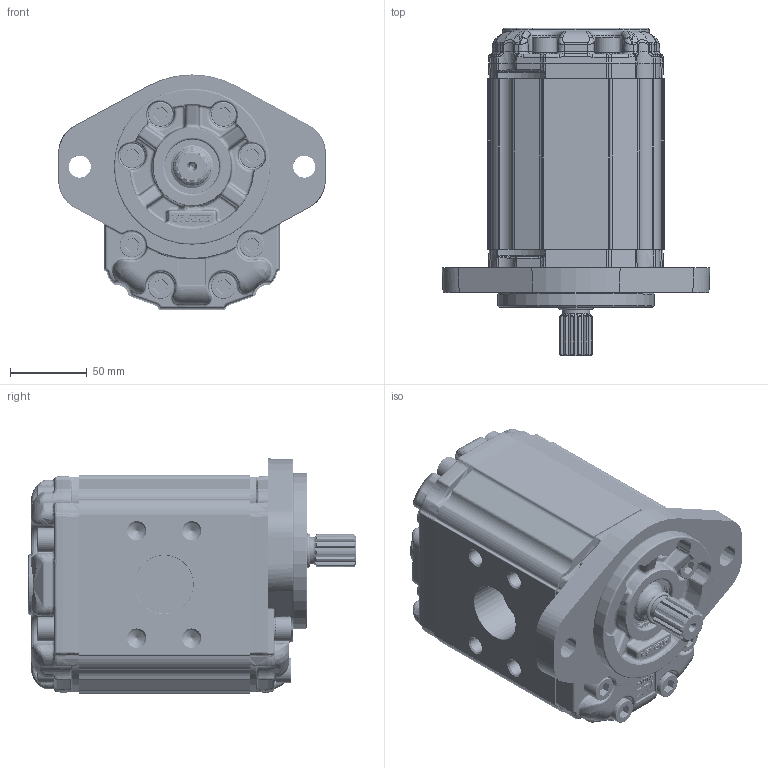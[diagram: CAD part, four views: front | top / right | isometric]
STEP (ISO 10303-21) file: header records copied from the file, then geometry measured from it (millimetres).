
FILE_DESCRIPTION(/* description */ ('Unknown'),/* implementation_level */ '2;1');
FILE_NAME(/* name */ 'X3R8631IPPF',/* time_stamp */ '2026-06-04T19:31:09+02:00',/* author */ ('Unknown'),/* organization */ ('Unknown'),/* preprocessor_version */ 'ST-DEVELOPER v16.7',/* originating_system */ 'Solid Edge',/* authorisation */ 'Unknown');
FILE_SCHEMA (('AUTOMOTIVE_DESIGN {1 0 10303 214 3 1 1}'));
Products named in the file (5): X3R8631IPPF; X3R31; 3I; X3PPH111; XR331-F
Assembly tree (4 placements, depth 2):
  X3R8631IPPF
    X3R31
    3I
    X3PPH111
    XR331-F
Bounding box: 174 x 213.2 x 153 mm (x, y, z)
Volume: 2431042 mm3; surface area: 241349 mm2
Topology: 4 solids, 5 shells, 4701 faces, 14311 edges, 8918 vertices
Faces by surface type: cylinder 1843, plane 1256, bspline 1245, torus 172, cone 159, sphere 26
Full cylindrical faces by diameter (mm): 2 x2, 10 x16, 10.35 x30, 10.5 x1, 10.584 x8, 14.314 x1, 14.315 x1, 15.8 x16, 16 x16, 18 x2, 24.98 x1, 25 x2, 25.968 x1, 28.16 x1, 31 x1, 31.293 x1, 32.742 x1, 34.956 x1, 35 x1, 35.2 x1, 37 x1, 38 x2, 101.6 x1
Entity records: 346992 total; most frequent: CARTESIAN_POINT 199100, ORIENTED_EDGE 27640, DIRECTION 19736, EDGE_CURVE 13820, VERTEX_POINT 8772, AXIS2_PLACEMENT_3D 7488, FACE_BOUND 5160, EDGE_LOOP 5150
